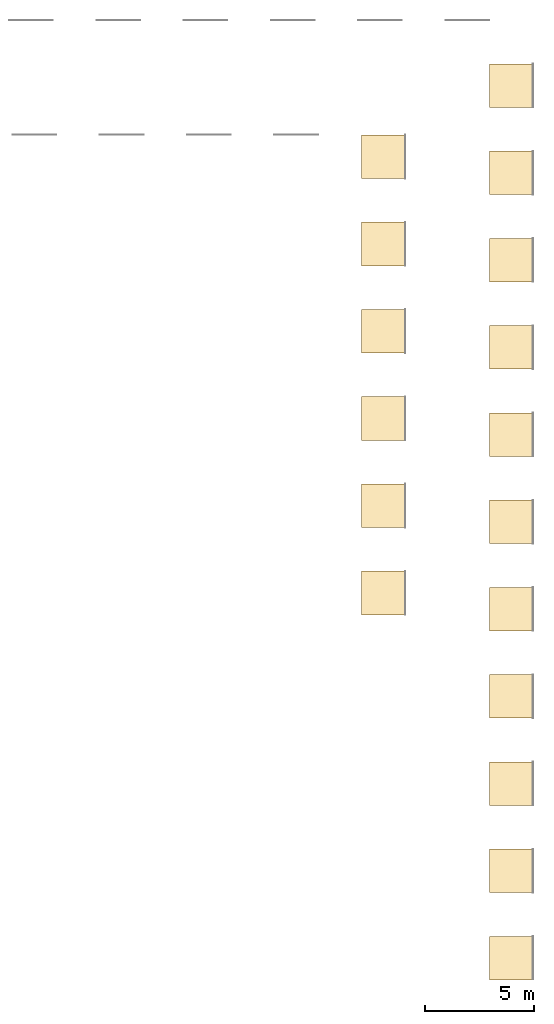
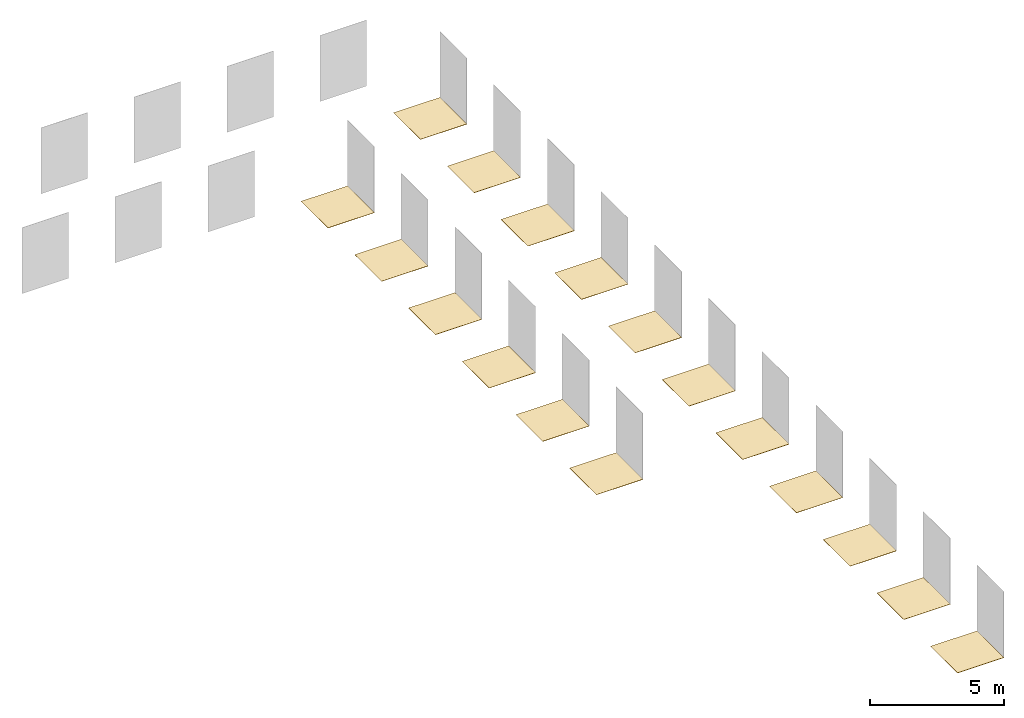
# One storey, part 2 of 2: 17 coverings.
"""IFC2X3 building model written with IfcOpenShell, lengths in millimetres."""

from ifc_helpers import new_model, entity, si_unit, converted_unit, derived_unit, direction, frame, frame_2d, origin, place, context, subcontext, project, spatial, rectangle, extrude, material, layer, layer_set, layer_usage, element, save


model = new_model("IFC2X3")

# Units and contexts
model_context = context("Model", 3, precision=0.01, world=origin(), true_north=direction((6.12303176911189e-17, 1.0)))
body_context = subcontext(model_context, "Body", "Model", "MODEL_VIEW")
ifc_project = project(units=[si_unit("LENGTHUNIT", "METRE", prefix="MILLI"), si_unit("AREAUNIT", "SQUARE_METRE"), si_unit("VOLUMEUNIT", "CUBIC_METRE"), converted_unit("PLANEANGLEUNIT", "DEGREE", entity("IfcRatioMeasure", 0.0174532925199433), si_unit("PLANEANGLEUNIT", "RADIAN"), dimensions=[0, 0, 0, 0, 0, 0, 0]), si_unit("MASSUNIT", "GRAM", prefix="KILO"), derived_unit("MASSDENSITYUNIT", [(si_unit("MASSUNIT", "GRAM", prefix="KILO"), 1), (si_unit("LENGTHUNIT", "METRE"), -3)]), si_unit("TIMEUNIT", "SECOND"), si_unit("FREQUENCYUNIT", "HERTZ"), si_unit("THERMODYNAMICTEMPERATUREUNIT", "DEGREE_CELSIUS"), derived_unit("THERMALTRANSMITTANCEUNIT", [(si_unit("MASSUNIT", "GRAM", prefix="KILO"), 1), (si_unit("THERMODYNAMICTEMPERATUREUNIT", "KELVIN"), -1), (si_unit("TIMEUNIT", "SECOND"), -3)]), derived_unit("VOLUMETRICFLOWRATEUNIT", [(si_unit("LENGTHUNIT", "METRE"), 3), (si_unit("TIMEUNIT", "SECOND"), -1)]), si_unit("ELECTRICCURRENTUNIT", "AMPERE"), si_unit("ELECTRICVOLTAGEUNIT", "VOLT"), si_unit("POWERUNIT", "WATT"), si_unit("FORCEUNIT", "NEWTON", prefix="KILO"), si_unit("ILLUMINANCEUNIT", "LUX"), si_unit("LUMINOUSFLUXUNIT", "LUMEN"), si_unit("LUMINOUSINTENSITYUNIT", "CANDELA"), derived_unit("USERDEFINED", [(si_unit("MASSUNIT", "GRAM", prefix="KILO"), -1), (si_unit("LENGTHUNIT", "METRE"), -2), (si_unit("TIMEUNIT", "SECOND"), 3), (si_unit("LUMINOUSFLUXUNIT", "LUMEN"), 1)]), derived_unit("LINEARVELOCITYUNIT", [(si_unit("LENGTHUNIT", "METRE"), 1), (si_unit("TIMEUNIT", "SECOND"), -1)]), si_unit("PRESSUREUNIT", "PASCAL"), derived_unit("USERDEFINED", [(si_unit("LENGTHUNIT", "METRE"), -2), (si_unit("MASSUNIT", "GRAM", prefix="KILO"), 1), (si_unit("TIMEUNIT", "SECOND"), -2)])], contexts=[model_context])

# Site, building, storey
site_placement = place(None, origin())
site = spatial("IfcSite", under=ifc_project, at=site_placement, Name="Default", CompositionType="ELEMENT")
building_placement = place(site_placement, origin())
building = spatial("IfcBuilding", under=site, at=building_placement, CompositionType="ELEMENT")
storey_placement = place(building_placement, origin())
storey = spatial("IfcBuildingStorey", under=building, at=storey_placement, Name="Level 1", CompositionType="ELEMENT", Elevation=0.0)

# Coverings
ifc_material_1 = material(Name="PGR_Porcelanosa_CeramicTiles_Bottega_Acero-1200x1200mm-100227107")
ifc_layer_1 = layer(ifc_material_1, 12.0)
ifc_layer_set_1 = layer_set([ifc_layer_1], Name="Floor:PGR_Porcelanosa_CeramicTiles_Bottega_Acero-1200x1200mm-100227107")
ifc_layer_usage_1 = layer_usage(ifc_layer_set_1, "AXIS3", "POSITIVE", 0.0)
covering_1_placement = place(storey_placement, origin())
element("IfcCovering", 1, at=covering_1_placement, inside=storey, material=ifc_layer_usage_1, Name="Floor:PGR_Porcelanosa_CeramicTiles_Bottega_Acero-1200x1200mm-100227107", ObjectType="Floor:PGR_Porcelanosa_CeramicTiles_Bottega_Acero-1200x1200mm-100227107", PredefinedType="FLOORING", context=body_context, shape_type="SweptSolid", body=[
    extrude(rectangle(XDim=2000.0, YDim=2000.0, at=frame_2d((2.1600499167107e-12, 1.13686837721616e-13), x_axis=(1.0, 0.0))), frame((2527.07742659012, 32498.0173252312, 0.0), z_axis=(0.0, 0.0, -1.0), x_axis=(0.0, 1.0, 0.0)), (0.0, 0.0, 1.0), 12.0),
])
ifc_material_2 = material(Name="PGR_Porcelanosa_CeramicTiles_Bottega_Acero-596x596mm-100214641")
ifc_layer_2 = layer(ifc_material_2, 10.3)
ifc_layer_set_2 = layer_set([ifc_layer_2], Name="Floor:PGR_Porcelanosa_CeramicTiles_Bottega_Acero-596x596mm-100214641")
ifc_layer_usage_2 = layer_usage(ifc_layer_set_2, "AXIS3", "POSITIVE", 0.0)
covering_2_placement = place(storey_placement, origin())
element("IfcCovering", 2, at=covering_2_placement, inside=storey, material=ifc_layer_usage_2, Name="Floor:PGR_Porcelanosa_CeramicTiles_Bottega_Acero-596x596mm-100214641", ObjectType="Floor:PGR_Porcelanosa_CeramicTiles_Bottega_Acero-596x596mm-100214641", PredefinedType="FLOORING", context=body_context, shape_type="SweptSolid", body=[
    extrude(rectangle(XDim=2000.0, YDim=2000.0, at=frame_2d((-2.1600499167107e-12, 1.13686837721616e-13), x_axis=(1.0, 0.0))), frame((2527.07742659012, 36498.0173252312, 0.0), z_axis=(0.0, 0.0, -1.0), x_axis=(0.0, 1.0, 0.0)), (0.0, 0.0, 1.0), 10.3),
])
ifc_material_3 = material(Name="PGR_Porcelanosa_CeramicTiles_Bottega_Acero-800x800mm-100214633")
ifc_layer_3 = layer(ifc_material_3, 11.2)
ifc_layer_set_3 = layer_set([ifc_layer_3], Name="Floor:PGR_Porcelanosa_CeramicTiles_Bottega_Acero-800x800mm-100214633")
ifc_layer_usage_3 = layer_usage(ifc_layer_set_3, "AXIS3", "POSITIVE", 0.0)
covering_3_placement = place(storey_placement, origin())
element("IfcCovering", 3, at=covering_3_placement, inside=storey, material=ifc_layer_usage_3, Name="Floor:PGR_Porcelanosa_CeramicTiles_Bottega_Acero-800x800mm-100214633", ObjectType="Floor:PGR_Porcelanosa_CeramicTiles_Bottega_Acero-800x800mm-100214633", PredefinedType="FLOORING", context=body_context, shape_type="SweptSolid", body=[
    extrude(rectangle(XDim=2000.0, YDim=2000.0, at=frame_2d((-4.32009983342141e-12, 1.13686837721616e-13), x_axis=(1.0, 0.0))), frame((2527.07742659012, 40498.0173252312, 0.0), z_axis=(0.0, 0.0, -1.0), x_axis=(0.0, 1.0, 0.0)), (0.0, 0.0, 1.0), 11.2),
])
ifc_material_4 = material(Name="PGR_Porcelanosa_CeramicTiles_Bottega_Acero_Ant.-596x596mm-100221464")
ifc_layer_4 = layer(ifc_material_4, 10.3)
ifc_layer_set_4 = layer_set([ifc_layer_4], Name="Floor:PGR_Porcelanosa_CeramicTiles_Bottega_Acero_Ant.-596x596mm-100221464")
ifc_layer_usage_4 = layer_usage(ifc_layer_set_4, "AXIS3", "POSITIVE", 0.0)
covering_4_placement = place(storey_placement, origin())
element("IfcCovering", 4, at=covering_4_placement, inside=storey, material=ifc_layer_usage_4, Name="Floor:PGR_Porcelanosa_CeramicTiles_Bottega_Acero_Ant.-596x596mm-100221464", ObjectType="Floor:PGR_Porcelanosa_CeramicTiles_Bottega_Acero_Ant.-596x596mm-100221464", PredefinedType="FLOORING", context=body_context, shape_type="SweptSolid", body=[
    extrude(rectangle(XDim=2000.0, YDim=2000.0, at=frame_2d((4.32009983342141e-12, 1.13686837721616e-13), x_axis=(1.0, 0.0))), frame((2527.07742659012, 44498.0173252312, 0.0), z_axis=(0.0, 0.0, -1.0), x_axis=(0.0, 1.0, 0.0)), (0.0, 0.0, 1.0), 10.3),
])
ifc_material_5 = material(Name="PGR_Porcelanosa_CeramicTiles_Bottega_Acero_Ant.-800x800mm-100221486")
ifc_layer_5 = layer(ifc_material_5, 11.2)
ifc_layer_set_5 = layer_set([ifc_layer_5], Name="Floor:PGR_Porcelanosa_CeramicTiles_Bottega_Acero_Ant.-800x800mm-100221486")
ifc_layer_usage_5 = layer_usage(ifc_layer_set_5, "AXIS3", "POSITIVE", 0.0)
covering_5_placement = place(storey_placement, origin())
element("IfcCovering", 5, at=covering_5_placement, inside=storey, material=ifc_layer_usage_5, Name="Floor:PGR_Porcelanosa_CeramicTiles_Bottega_Acero_Ant.-800x800mm-100221486", ObjectType="Floor:PGR_Porcelanosa_CeramicTiles_Bottega_Acero_Ant.-800x800mm-100221486", PredefinedType="FLOORING", context=body_context, shape_type="SweptSolid", body=[
    extrude(rectangle(XDim=2000.0, YDim=2000.0, at=frame_2d((-4.32009983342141e-12, 1.13686837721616e-13), x_axis=(1.0, 0.0))), frame((2527.07742659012, 48498.0173252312, 0.0), z_axis=(0.0, 0.0, -1.0), x_axis=(0.0, 1.0, 0.0)), (0.0, 0.0, 1.0), 11.2),
])
ifc_material_6 = material(Name="PGR_Porcelanosa_CeramicTiles_Bottega_Caliza-1200x1200mm-100214898")
ifc_layer_6 = layer(ifc_material_6, 12.0)
ifc_layer_set_6 = layer_set([ifc_layer_6], Name="Floor:PGR_Porcelanosa_CeramicTiles_Bottega_Caliza-1200x1200mm-100214898")
ifc_layer_usage_6 = layer_usage(ifc_layer_set_6, "AXIS3", "POSITIVE", 0.0)
covering_6_placement = place(storey_placement, origin())
element("IfcCovering", 6, at=covering_6_placement, inside=storey, material=ifc_layer_usage_6, Name="Floor:PGR_Porcelanosa_CeramicTiles_Bottega_Caliza-1200x1200mm-100214898", ObjectType="Floor:PGR_Porcelanosa_CeramicTiles_Bottega_Caliza-1200x1200mm-100214898", PredefinedType="FLOORING", context=body_context, shape_type="SweptSolid", body=[
    extrude(rectangle(XDim=2000.0, YDim=2000.0, at=frame_2d((-4.32009983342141e-12, -2.8421709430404e-13), x_axis=(1.0, 0.0))), frame((-3329.87595518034, 49240.7986779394, 0.0), z_axis=(0.0, 0.0, -1.0), x_axis=(0.0, 1.0, 0.0)), (0.0, 0.0, 1.0), 12.0),
])
ifc_material_7 = material(Name="PGR_Porcelanosa_CeramicTiles_Bottega_Caliza-596x596mm-100214648")
ifc_layer_7 = layer(ifc_material_7, 10.3)
ifc_layer_set_7 = layer_set([ifc_layer_7], Name="Floor:PGR_Porcelanosa_CeramicTiles_Bottega_Caliza-596x596mm-100214648")
ifc_layer_usage_7 = layer_usage(ifc_layer_set_7, "AXIS3", "POSITIVE", 0.0)
covering_7_placement = place(storey_placement, origin())
element("IfcCovering", 7, at=covering_7_placement, inside=storey, material=ifc_layer_usage_7, Name="Floor:PGR_Porcelanosa_CeramicTiles_Bottega_Caliza-596x596mm-100214648", ObjectType="Floor:PGR_Porcelanosa_CeramicTiles_Bottega_Caliza-596x596mm-100214648", PredefinedType="FLOORING", context=body_context, shape_type="SweptSolid", body=[
    extrude(rectangle(XDim=2000.0, YDim=2000.0, at=frame_2d((4.32009983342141e-12, -2.8421709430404e-13), x_axis=(1.0, 0.0))), frame((-3329.87595518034, 53240.7986779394, 0.0), z_axis=(0.0, 0.0, -1.0), x_axis=(0.0, 1.0, 0.0)), (0.0, 0.0, 1.0), 10.3),
])
ifc_material_8 = material(Name="PGR_Porcelanosa_CeramicTiles_Bottega_Caliza-800x800mm-100214608")
ifc_layer_8 = layer(ifc_material_8, 11.2)
ifc_layer_set_8 = layer_set([ifc_layer_8], Name="Floor:PGR_Porcelanosa_CeramicTiles_Bottega_Caliza-800x800mm-100214608")
ifc_layer_usage_8 = layer_usage(ifc_layer_set_8, "AXIS3", "POSITIVE", 0.0)
covering_8_placement = place(storey_placement, origin())
element("IfcCovering", 8, at=covering_8_placement, inside=storey, material=ifc_layer_usage_8, Name="Floor:PGR_Porcelanosa_CeramicTiles_Bottega_Caliza-800x800mm-100214608", ObjectType="Floor:PGR_Porcelanosa_CeramicTiles_Bottega_Caliza-800x800mm-100214608", PredefinedType="FLOORING", context=body_context, shape_type="SweptSolid", body=[
    extrude(rectangle(XDim=2000.0, YDim=2000.0, at=frame_2d((-4.32009983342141e-12, -2.8421709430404e-13), x_axis=(1.0, 0.0))), frame((-3329.87595518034, 57240.7986779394, 0.0), z_axis=(0.0, 0.0, -1.0), x_axis=(0.0, 1.0, 0.0)), (0.0, 0.0, 1.0), 11.2),
])
ifc_material_9 = material(Name="PGR_Porcelanosa_CeramicTiles_Bottega_Caliza_Ant.-596x596mm-100221473")
ifc_layer_9 = layer(ifc_material_9, 10.3)
ifc_layer_set_9 = layer_set([ifc_layer_9], Name="Floor:PGR_Porcelanosa_CeramicTiles_Bottega_Caliza_Ant.-596x596mm-100221473")
ifc_layer_usage_9 = layer_usage(ifc_layer_set_9, "AXIS3", "POSITIVE", 0.0)
covering_9_placement = place(storey_placement, origin())
element("IfcCovering", 9, at=covering_9_placement, inside=storey, material=ifc_layer_usage_9, Name="Floor:PGR_Porcelanosa_CeramicTiles_Bottega_Caliza_Ant.-596x596mm-100221473", ObjectType="Floor:PGR_Porcelanosa_CeramicTiles_Bottega_Caliza_Ant.-596x596mm-100221473", PredefinedType="FLOORING", context=body_context, shape_type="SweptSolid", body=[
    extrude(rectangle(XDim=2000.0, YDim=2000.0, at=frame_2d((4.32009983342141e-12, -2.8421709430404e-13), x_axis=(1.0, 0.0))), frame((-3329.87595518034, 61240.7986779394, 0.0), z_axis=(0.0, 0.0, -1.0), x_axis=(0.0, 1.0, 0.0)), (0.0, 0.0, 1.0), 10.3),
])
ifc_material_10 = material(Name="PGR_Porcelanosa_CeramicTiles_Bottega_Caliza_Ant.-800x800mm-100221502")
ifc_layer_10 = layer(ifc_material_10, 11.2)
ifc_layer_set_10 = layer_set([ifc_layer_10], Name="Floor:PGR_Porcelanosa_CeramicTiles_Bottega_Caliza_Ant.-800x800mm-100221502")
ifc_layer_usage_10 = layer_usage(ifc_layer_set_10, "AXIS3", "POSITIVE", 0.0)
covering_10_placement = place(storey_placement, origin())
element("IfcCovering", 10, at=covering_10_placement, inside=storey, material=ifc_layer_usage_10, Name="Floor:PGR_Porcelanosa_CeramicTiles_Bottega_Caliza_Ant.-800x800mm-100221502", ObjectType="Floor:PGR_Porcelanosa_CeramicTiles_Bottega_Caliza_Ant.-800x800mm-100221502", PredefinedType="FLOORING", context=body_context, shape_type="SweptSolid", body=[
    extrude(rectangle(XDim=2000.0, YDim=2000.0, at=frame_2d((-4.32009983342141e-12, -2.8421709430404e-13), x_axis=(1.0, 0.0))), frame((-3329.87595518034, 65240.7986779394, 0.0), z_axis=(0.0, 0.0, -1.0), x_axis=(0.0, 1.0, 0.0)), (0.0, 0.0, 1.0), 11.2),
])
ifc_material_11 = material(Name="PGR_Porcelanosa_CeramicTiles_Bottega_Acero-443x443mm-100225055")
ifc_layer_11 = layer(ifc_material_11, 10.3)
ifc_layer_set_11 = layer_set([ifc_layer_11], Name="Floor:PGR_Porcelanosa_CeramicTiles_Bottega_Acero-443x443mm-100225055")
ifc_layer_usage_11 = layer_usage(ifc_layer_set_11, "AXIS3", "POSITIVE", 0.0)
covering_11_placement = place(storey_placement, origin())
element("IfcCovering", 11, at=covering_11_placement, inside=storey, material=ifc_layer_usage_11, Name="Floor:PGR_Porcelanosa_CeramicTiles_Bottega_Acero-443x443mm-100225055", ObjectType="Floor:PGR_Porcelanosa_CeramicTiles_Bottega_Acero-443x443mm-100225055", PredefinedType="FLOORING", context=body_context, shape_type="SweptSolid", body=[
    extrude(rectangle(XDim=2000.0, YDim=2000.0, at=frame_2d((-4.32009983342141e-12, 1.13686837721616e-13), x_axis=(1.0, 0.0))), frame((2527.07742659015, 52498.0173252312, 0.0), z_axis=(0.0, 0.0, -1.0), x_axis=(0.0, 1.0, 0.0)), (0.0, 0.0, 1.0), 10.3),
])
ifc_material_12 = material(Name="PGR_Porcelanosa_CeramicTiles_Bottega_Caliza-443x443mm-100225065")
ifc_layer_12 = layer(ifc_material_12, 11.2)
ifc_layer_set_12 = layer_set([ifc_layer_12], Name="Floor:PGR_Porcelanosa_CeramicTiles_Bottega_Caliza-443x443mm-100225065")
ifc_layer_usage_12 = layer_usage(ifc_layer_set_12, "AXIS3", "POSITIVE", 0.0)
covering_12_placement = place(storey_placement, origin())
element("IfcCovering", 12, at=covering_12_placement, inside=storey, material=ifc_layer_usage_12, Name="Floor:PGR_Porcelanosa_CeramicTiles_Bottega_Caliza-443x443mm-100225065", ObjectType="Floor:PGR_Porcelanosa_CeramicTiles_Bottega_Caliza-443x443mm-100225065", PredefinedType="FLOORING", context=body_context, shape_type="SweptSolid", body=[
    extrude(rectangle(XDim=2000.0, YDim=2000.0, at=frame_2d((4.32009983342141e-12, -2.8421709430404e-13), x_axis=(1.0, 0.0))), frame((-3329.87595518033, 69240.7986779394, 0.0), z_axis=(0.0, 0.0, -1.0), x_axis=(0.0, 1.0, 0.0)), (0.0, 0.0, 1.0), 11.2),
])
ifc_material_13 = material(Name="PGR_Porcelanosa_CeramicTiles_Bottega_Topo-1200x1200mm-100227119")
ifc_layer_13 = layer(ifc_material_13, 12.0)
ifc_layer_set_13 = layer_set([ifc_layer_13], Name="Floor:PGR_Porcelanosa_CeramicTiles_Bottega_Topo-1200x1200mm-100227119")
ifc_layer_usage_13 = layer_usage(ifc_layer_set_13, "AXIS3", "POSITIVE", 0.0)
covering_13_placement = place(storey_placement, origin())
element("IfcCovering", 13, at=covering_13_placement, inside=storey, material=ifc_layer_usage_13, Name="Floor:PGR_Porcelanosa_CeramicTiles_Bottega_Topo-1200x1200mm-100227119", ObjectType="Floor:PGR_Porcelanosa_CeramicTiles_Bottega_Topo-1200x1200mm-100227119", PredefinedType="FLOORING", context=body_context, shape_type="SweptSolid", body=[
    extrude(rectangle(XDim=2000.0, YDim=2000.0, at=frame_2d((-4.32009983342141e-12, 1.13686837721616e-13), x_axis=(1.0, 0.0))), frame((2527.07742659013, 56498.0173252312, 0.0), z_axis=(0.0, 0.0, -1.0), x_axis=(0.0, 1.0, 0.0)), (0.0, 0.0, 1.0), 12.0),
])
ifc_material_14 = material(Name="PGR_Porcelanosa_CeramicTiles_Bottega_Topo-596x596mm-100214662")
ifc_layer_14 = layer(ifc_material_14, 10.3)
ifc_layer_set_14 = layer_set([ifc_layer_14], Name="Floor:PGR_Porcelanosa_CeramicTiles_Bottega_Topo-596x596mm-100214662")
ifc_layer_usage_14 = layer_usage(ifc_layer_set_14, "AXIS3", "POSITIVE", 0.0)
covering_14_placement = place(storey_placement, origin())
element("IfcCovering", 14, at=covering_14_placement, inside=storey, material=ifc_layer_usage_14, Name="Floor:PGR_Porcelanosa_CeramicTiles_Bottega_Topo-596x596mm-100214662", ObjectType="Floor:PGR_Porcelanosa_CeramicTiles_Bottega_Topo-596x596mm-100214662", PredefinedType="FLOORING", context=body_context, shape_type="SweptSolid", body=[
    extrude(rectangle(XDim=2000.0, YDim=2000.0, at=frame_2d((4.32009983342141e-12, 1.13686837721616e-13), x_axis=(1.0, 0.0))), frame((2527.07742659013, 60498.0173252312, 0.0), z_axis=(0.0, 0.0, -1.0), x_axis=(0.0, 1.0, 0.0)), (0.0, 0.0, 1.0), 10.3),
])
ifc_material_15 = material(Name="PGR_Porcelanosa_CeramicTiles_Bottega_Topo-800x800mm-100214622")
ifc_layer_15 = layer(ifc_material_15, 11.2)
ifc_layer_set_15 = layer_set([ifc_layer_15], Name="Floor:PGR_Porcelanosa_CeramicTiles_Bottega_Topo-800x800mm-100214622")
ifc_layer_usage_15 = layer_usage(ifc_layer_set_15, "AXIS3", "POSITIVE", 0.0)
covering_15_placement = place(storey_placement, origin())
element("IfcCovering", 15, at=covering_15_placement, inside=storey, material=ifc_layer_usage_15, Name="Floor:PGR_Porcelanosa_CeramicTiles_Bottega_Topo-800x800mm-100214622", ObjectType="Floor:PGR_Porcelanosa_CeramicTiles_Bottega_Topo-800x800mm-100214622", PredefinedType="FLOORING", context=body_context, shape_type="SweptSolid", body=[
    extrude(rectangle(XDim=2000.0, YDim=2000.0, at=frame_2d((-4.32009983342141e-12, 1.13686837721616e-13), x_axis=(1.0, 0.0))), frame((2527.07742659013, 64498.0173252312, 0.0), z_axis=(0.0, 0.0, -1.0), x_axis=(0.0, 1.0, 0.0)), (0.0, 0.0, 1.0), 11.2),
])
ifc_material_16 = material(Name="PGR_Porcelanosa_CeramicTiles_Bottega_Topo_Ant.-596x596mm-100221449")
ifc_layer_16 = layer(ifc_material_16, 10.3)
ifc_layer_set_16 = layer_set([ifc_layer_16], Name="Floor:PGR_Porcelanosa_CeramicTiles_Bottega_Topo_Ant.-596x596mm-100221449")
ifc_layer_usage_16 = layer_usage(ifc_layer_set_16, "AXIS3", "POSITIVE", 0.0)
covering_16_placement = place(storey_placement, origin())
element("IfcCovering", 16, at=covering_16_placement, inside=storey, material=ifc_layer_usage_16, Name="Floor:PGR_Porcelanosa_CeramicTiles_Bottega_Topo_Ant.-596x596mm-100221449", ObjectType="Floor:PGR_Porcelanosa_CeramicTiles_Bottega_Topo_Ant.-596x596mm-100221449", PredefinedType="FLOORING", context=body_context, shape_type="SweptSolid", body=[
    extrude(rectangle(XDim=2000.0, YDim=2000.0, at=frame_2d((4.32009983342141e-12, 1.13686837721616e-13), x_axis=(1.0, 0.0))), frame((2527.07742659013, 68498.0173252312, 0.0), z_axis=(0.0, 0.0, -1.0), x_axis=(0.0, 1.0, 0.0)), (0.0, 0.0, 1.0), 10.3),
])
ifc_material_17 = material(Name="PGR_Porcelanosa_CeramicTiles_Bottega_Topo_Ant.-800x800mm-100221465")
ifc_layer_17 = layer(ifc_material_17, 11.2)
ifc_layer_set_17 = layer_set([ifc_layer_17], Name="Floor:PGR_Porcelanosa_CeramicTiles_Bottega_Topo_Ant.-800x800mm-100221465")
ifc_layer_usage_17 = layer_usage(ifc_layer_set_17, "AXIS3", "POSITIVE", 0.0)
covering_17_placement = place(storey_placement, origin())
element("IfcCovering", 17, at=covering_17_placement, inside=storey, material=ifc_layer_usage_17, Name="Floor:PGR_Porcelanosa_CeramicTiles_Bottega_Topo_Ant.-800x800mm-100221465", ObjectType="Floor:PGR_Porcelanosa_CeramicTiles_Bottega_Topo_Ant.-800x800mm-100221465", PredefinedType="FLOORING", context=body_context, shape_type="SweptSolid", body=[
    extrude(rectangle(XDim=2000.0, YDim=2000.0, at=frame_2d((4.32009983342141e-12, 1.13686837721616e-13), x_axis=(1.0, 0.0))), frame((2527.07742659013, 72498.0173252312, 0.0), z_axis=(0.0, 0.0, -1.0), x_axis=(0.0, 1.0, 0.0)), (0.0, 0.0, 1.0), 11.2),
])

save(model, "model.ifc")
